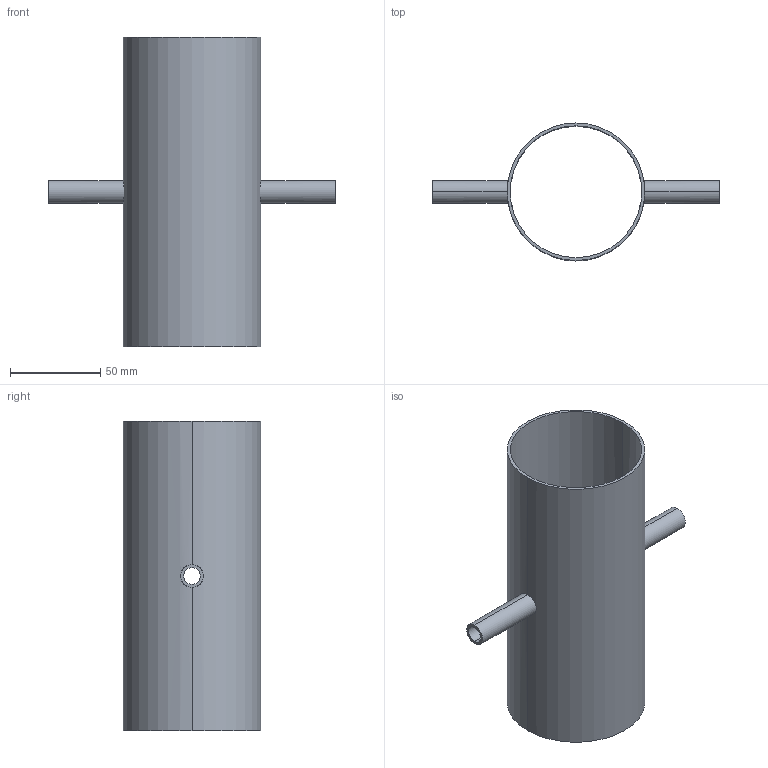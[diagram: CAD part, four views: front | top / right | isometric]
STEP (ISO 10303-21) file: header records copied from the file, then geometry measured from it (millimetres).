
FILE_DESCRIPTION (( 'STEP AP214' ), '1' );
FILE_NAME ('TE9RWWWW6L3.0x.5-...STEP', '2016-05-22T04:20:54', ( 'eran' ), ( '' ), 'SwSTEP 2.0', 'SolidWorks 2016', '' );
FILE_SCHEMA (( 'AUTOMOTIVE_DESIGN' ));
Length unit declared in the file: millimetre
Products named in the file (1): TE9RWWWW6L3.0x.5-..
Bounding box: 158.75 x 76.2 x 171.45 mm (x, y, z)
Volume: 70818.1 mm3; surface area: 86661.3 mm2
Topology: 1 solids, 1 shells, 16 faces, 40 edges, 24 vertices
Faces by surface type: cylinder 12, plane 4
Entity records: 806 total; most frequent: CARTESIAN_POINT 381, DIRECTION 82, ORIENTED_EDGE 80, EDGE_CURVE 40, AXIS2_PLACEMENT_3D 33, VERTEX_POINT 24, EDGE_LOOP 20, CIRCLE 16
